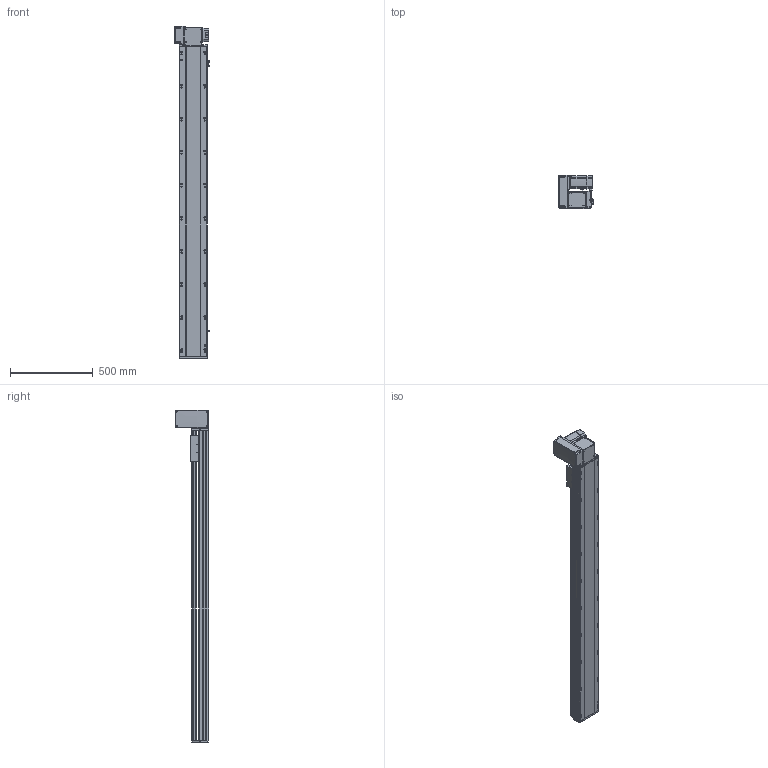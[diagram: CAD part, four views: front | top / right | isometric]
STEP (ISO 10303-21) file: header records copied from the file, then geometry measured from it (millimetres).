
FILE_DESCRIPTION (( 'STEP AP214' ), '1' );
FILE_NAME ('RTB17S-XX-1600-LW-M75-C4.STEP', '2025-12-12T01:08:10', ( '' ), ( '' ), 'SwSTEP 2.0', 'SolidWorks 2018', '' );
FILE_SCHEMA (( 'AUTOMOTIVE_DESIGN' ));
Length unit declared in the file: millimetre
Products named in the file (15): RTB17S-L-014-T20-P75--々湍釱^RTB17S-LW-々湍釱蚾饜-750W_RTB17S-XX-XX-LW-M75-C4; RTB17S-LW-々湍釱蚾饜-750W^RTB17S-XX-XX-LW-M75-C4; 750W萇儂^RTB17S-XX-XX-LW-M75-C4; RTB22S-GY-018P^RTB17S-LW-々湍釱蚾饜-750W_RTB17S-XX-XX-LW-M75-C4; EE672^RTB17S-XX-XX-LW-M75-C4; RTH13-BL-012覜茼え俋离^RTB17S-賑釱_RTB17S-XX-XX-LW-M75-C4; RTB17S-L-001-耜醱啣^RTB17S-XX-XX-LW-M75-C4; RTB17-R-011菁釱^RTB17S-XX-XX-LW-M75-C4; RTB17S-L-004-賑釱^RTB17S-賑釱_RTB17S-XX-XX-LW-M75-C4; RTB17S-XX-1600-LW-M75-C4; RTB17S-L-007奻裔^RTB17S-XX-XX-LW-M75-C4; RTB22S-GY-008-M75--萇儂啣^RTB17S-LW-々湍釱蚾饜-750W_RTB17S-XX-XX-LW-M75-C4; RTB22S-GY-017P^RTB17S-LW-々湍釱蚾饜-750W_RTB17S-XX-XX-LW-M75-C4; RTB22S-GY-005P^RTB17S-LW-々湍釱蚾饜-750W_RTB17S-XX-XX-LW-M75-C4; RTB17S-賑釱^RTB17S-XX-XX-LW-M75-C4
Assembly tree (17 placements, depth 3):
  RTB17S-XX-1600-LW-M75-C4
    RTB17-R-011菁釱^RTB17S-XX-XX-LW-M75-C4
    EE672^RTB17S-XX-XX-LW-M75-C4  x3
    RTB17S-L-001-耜醱啣^RTB17S-XX-XX-LW-M75-C4
    RTB17S-賑釱^RTB17S-XX-XX-LW-M75-C4
      RTB17S-L-004-賑釱^RTB17S-賑釱_RTB17S-XX-XX-LW-M75-C4
      RTH13-BL-012覜茼え俋离^RTB17S-賑釱_RTB17S-XX-XX-LW-M75-C4
    RTB17S-L-007奻裔^RTB17S-XX-XX-LW-M75-C4
    750W萇儂^RTB17S-XX-XX-LW-M75-C4
    RTB17S-LW-々湍釱蚾饜-750W^RTB17S-XX-XX-LW-M75-C4
      RTB17S-L-014-T20-P75--々湍釱^RTB17S-LW-々湍釱蚾饜-750W_RTB17S-XX-XX-LW-M75-C4
      RTB22S-GY-005P^RTB17S-LW-々湍釱蚾饜-750W_RTB17S-XX-XX-LW-M75-C4
      RTB22S-GY-017P^RTB17S-LW-々湍釱蚾饜-750W_RTB17S-XX-XX-LW-M75-C4  x2
      RTB22S-GY-008-M75--萇儂啣^RTB17S-LW-々湍釱蚾饜-750W_RTB17S-XX-XX-LW-M75-C4
      RTB22S-GY-018P^RTB17S-LW-々湍釱蚾饜-750W_RTB17S-XX-XX-LW-M75-C4
Bounding box: 210.4 x 201.5 x 2007.5 mm (x, y, z)
Volume: 15954455.5 mm3; surface area: 2807017.3 mm2
Topology: 17 solids, 17 shells, 2137 faces, 5944 edges, 3842 vertices
Faces by surface type: plane 976, cylinder 745, bspline 294, cone 110, sphere 8, torus 4
Entity records: 60406 total; most frequent: CARTESIAN_POINT 17808, ORIENTED_EDGE 8732, DIRECTION 8132, EDGE_CURVE 4366, AXIS2_PLACEMENT_3D 2862, VERTEX_POINT 2846, VECTOR 2408, LINE 2408
